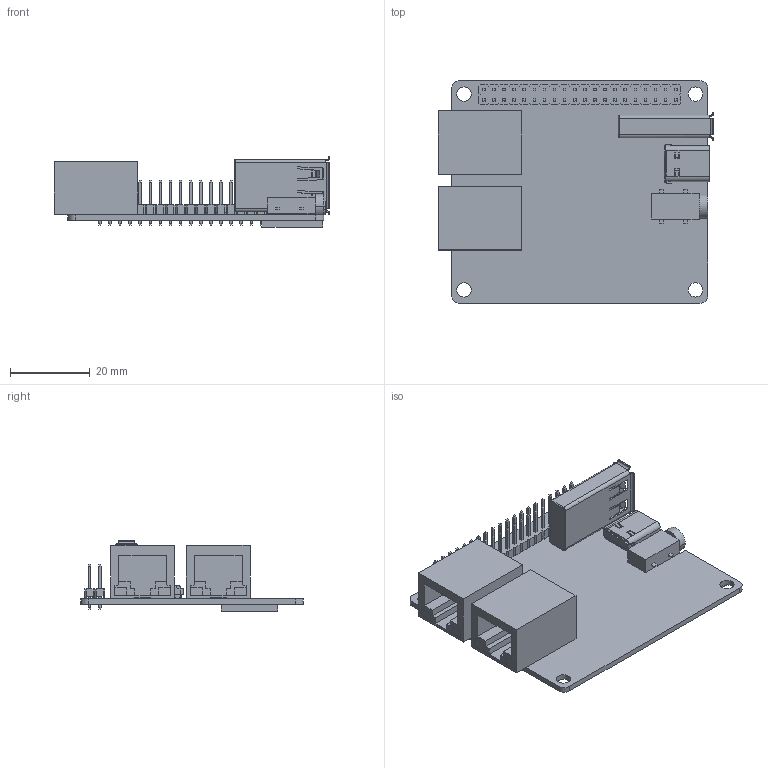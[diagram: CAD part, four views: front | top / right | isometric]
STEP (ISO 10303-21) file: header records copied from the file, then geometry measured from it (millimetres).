
FILE_DESCRIPTION(('FreeCAD Model'),'2;1');
FILE_NAME('Open CASCADE Shape Model','2023-03-16T14:20:48',(''),(''), 'Open CASCADE STEP processor 7.6','FreeCAD','Unknown');
FILE_SCHEMA(('AUTOMOTIVE_DESIGN { 1 0 10303 214 1 1 1 1 }'));
Length unit declared in the file: millimetre
Products named in the file (9): ROCKPi_E; PCB001; GPIO_base001; GPIO_P080; RJ45001; HP_JACK001; USB_TYPE_C001; USB_A001; Unnamed
Assembly tree (95 placements, depth 3):
  ROCKPi_E
    PCB001
    GPIO_base001
    GPIO_P080  x40
    RJ45001  x2
    HP_JACK001
    USB_TYPE_C001
    USB_A001
    Unnamed
      PCB001
      GPIO_base001
      GPIO_P080  x40
      RJ45001  x2
      HP_JACK001
      USB_TYPE_C001
      USB_A001
Bounding box: 69.3 x 56 x 17.75 mm (x, y, z)
Volume: 26915 mm3; surface area: 35572 mm2
Topology: 94 solids, 94 shells, 3354 faces, 8386 edges, 5292 vertices
Faces by surface type: plane 2978, cylinder 352, cone 16, torus 8
Entity records: 80536 total; most frequent: CARTESIAN_POINT 17304, DIRECTION 11318, LINE 8088, VECTOR 8088, ORIENTED_EDGE 6010, PCURVE 6010, DEFINITIONAL_REPRESENTATION 6010, EDGE_CURVE 3005
